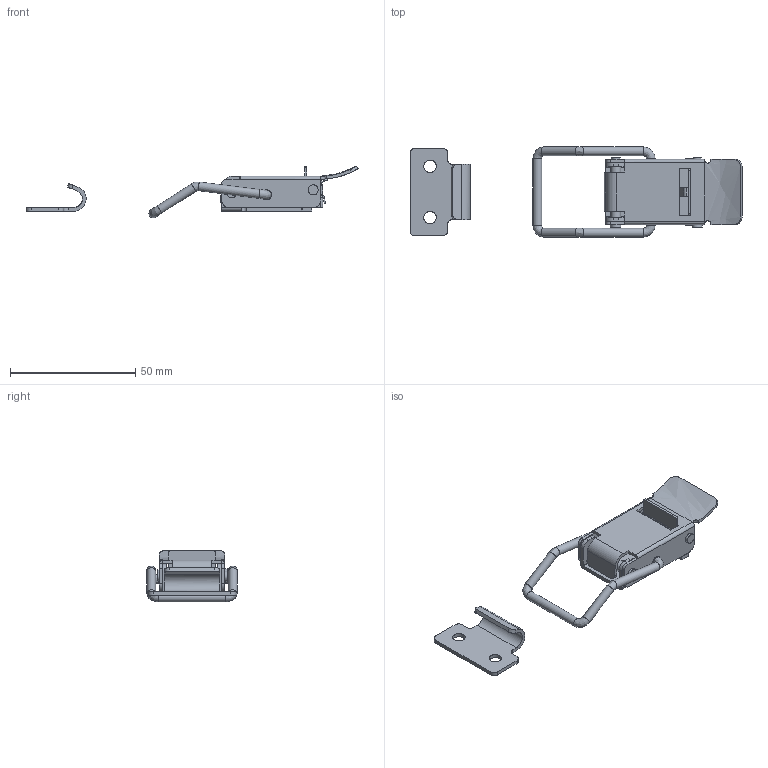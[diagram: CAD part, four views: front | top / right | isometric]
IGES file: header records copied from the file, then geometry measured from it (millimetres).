
Global section: file name: DR_C-B7; native system: Autodesk Inventor 2015; preprocessor: unknown; author: Administrator; date: 20170904.144708; units: millimetre
Bounding box: 132.52 x 36 x 20.67 mm (x, y, z)
Volume: 7752.7 mm3; surface area: 12389.8 mm2
Topology: 6 solids, 6 shells, 240 faces, 617 edges, 390 vertices
Faces by surface type: bspline 240
